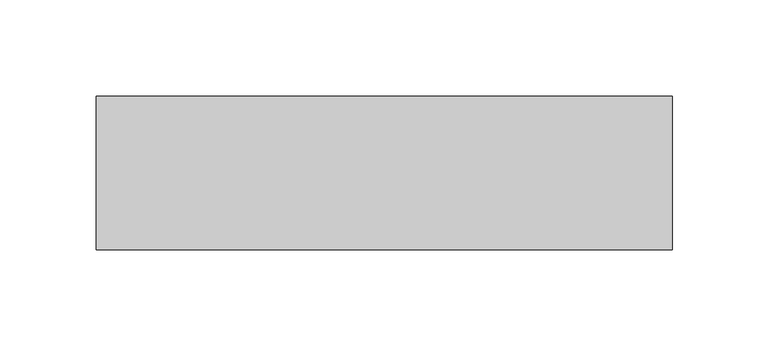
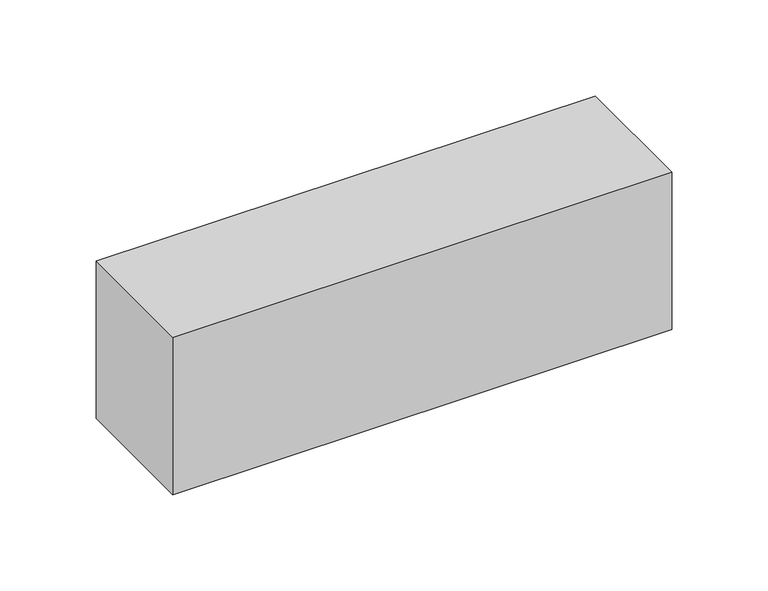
"""IFC4 building model written with IfcOpenShell, lengths in millimetres: proxy geometry, VMN_N : VMN_N."""

from ifc_helpers import new_model, si_unit, frame, origin, place, context, project, spatial, polyline, outline, extrude, source, transform, mapped, element, save


def specialty_equipment_c2dee52f(model_context):
    return source(origin(), model_context, "Body", "SweptSolid", [
        extrude(outline(polyline([(150.0, 0.0), (150.0, -80.0), (-150.0, -80.0), (-150.0, 0.0), (150.0, 0.0)])), frame((0.0, 0.0, 2200.0), z_axis=(0.0, 0.0, 1.0), x_axis=(1.0, 0.0, 0.0)), (0.0, 0.0, 1.0), 100.0),
    ])


if __name__ == "__main__":
    model = new_model("IFC4")
    model_context = context("Model", 3, world=origin())
    ifc_project = project(units=[si_unit("LENGTHUNIT", "METRE", prefix="MILLI")], contexts=[model_context])
    site = spatial("IfcSite", under=ifc_project)
    building = spatial("IfcBuilding", under=site)
    placement = place(None, origin())
    specialty_equipment_shape = specialty_equipment_c2dee52f(model_context)
    element("IfcBuildingElementProxy", 1, Name="VMN_N : VMN_N", ObjectType="VMN_N : VMN_N", at=placement, inside=building, context=model_context, shape_type="MappedRepresentation", body=[
        mapped(specialty_equipment_shape, transform((0.0, 0.0, 0.0), x_axis=(1.0, 0.0, 0.0), y_axis=(0.0, 1.0, 0.0), z_axis=(0.0, 0.0, 1.0))),
    ])
    save(model, "model.ifc")
